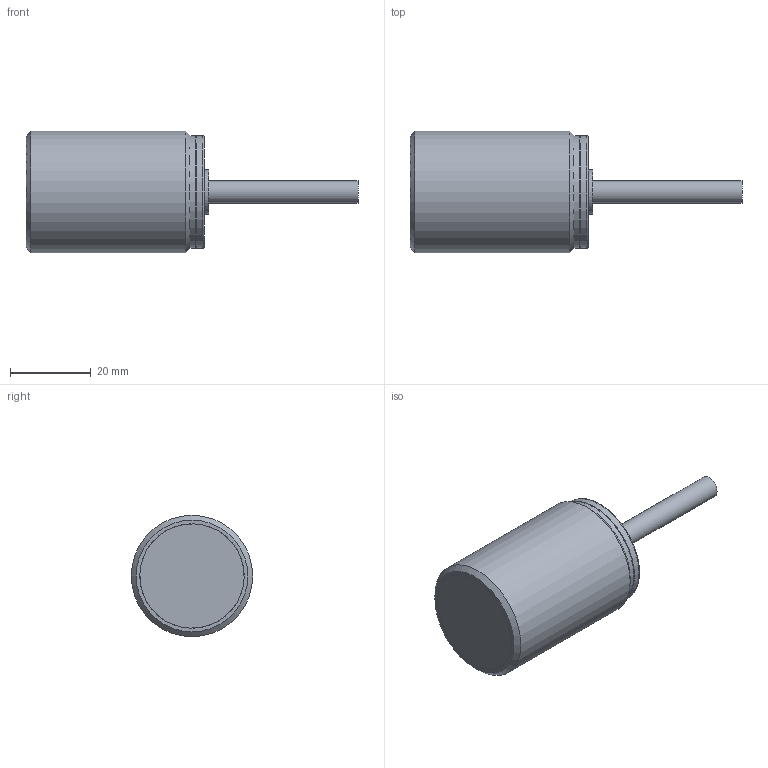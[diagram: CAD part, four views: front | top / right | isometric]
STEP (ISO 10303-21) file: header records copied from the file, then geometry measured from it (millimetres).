
FILE_DESCRIPTION(/* description */ (''),/* implementation_level */ '2;1');
FILE_NAME(/* name */ 'AT6_1A_fig',/* time_stamp */ '2017-11-02T09:24:08+01:00',/* author */ (''),/* organization */ (''),/* preprocessor_version */ 'ST-DEVELOPER v16.7',/* originating_system */ 'DEX',/* authorisation */ $);
FILE_SCHEMA (('AUTOMOTIVE_DESIGN {1 0 10303 214 3 1 1}'));
Length unit declared in the file: millimetre
Products named in the file (1): AT6_1A_fig
Bounding box: 82 x 30 x 30 mm (x, y, z)
Volume: 31602.1 mm3; surface area: 6690.8 mm2
Topology: 1 solids, 1 shells, 20 faces, 33 edges, 21 vertices
Faces by surface type: cylinder 8, plane 8, cone 3, torus 1
Full cylindrical faces by diameter (mm): 5.5 x1, 5.7 x1, 11 x1, 25.75 x1, 25.8 x1, 27.8 x2, 30 x1
Entity records: 558 total; most frequent: DIRECTION 80, CARTESIAN_POINT 59, AXIS2_PLACEMENT_3D 40, ORIENTED_EDGE 38, EDGE_LOOP 38, FACE_BOUND 38, STYLED_ITEM 20, PRESENTATION_STYLE_ASSIGNMENT 20
